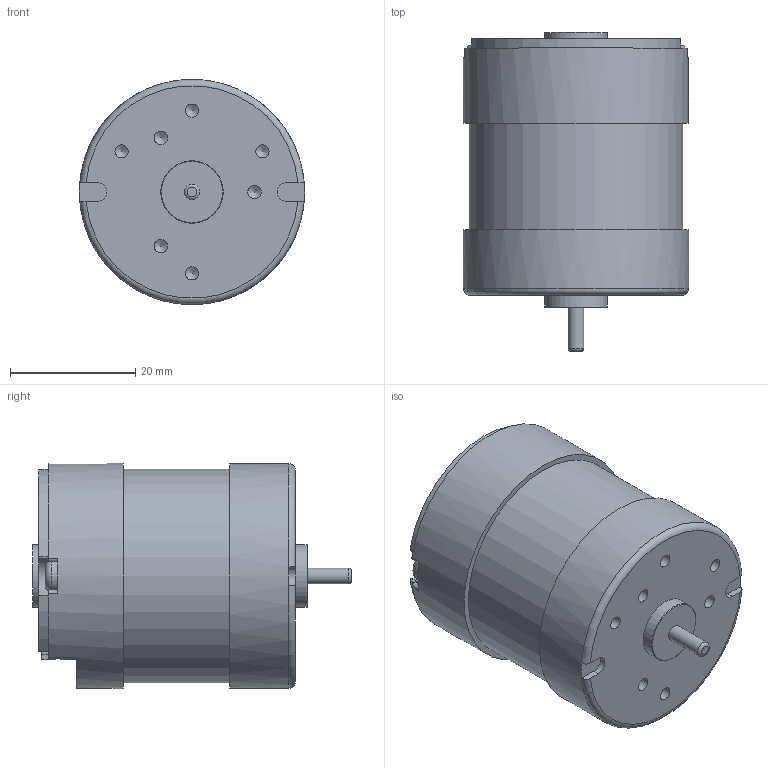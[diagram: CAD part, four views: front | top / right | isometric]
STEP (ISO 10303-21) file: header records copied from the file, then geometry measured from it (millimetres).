
FILE_DESCRIPTION(/* description */ (''),/* implementation_level */ '2;1');
FILE_NAME(/* name */ 'C:\Users\kougu\OneDrive\デスクトップ\TP-3641AB.stp',/* time_stamp */ '2024-07-02T17:17:48+09:00',/* author */ ('kougu'),/* organization */ (''),/* preprocessor_version */ 'ST-DEVELOPER v18.1',/* originating_system */ 'Autodesk Inventor 2021',/* authorisation */ '');
FILE_SCHEMA (('AUTOMOTIVE_DESIGN { 1 0 10303 214 3 1 1 }'));
Length unit declared in the file: millimetre
Products named in the file (3): TP-3641AB; TP-3641BA,l; S9B-PH-SM4-TB
Assembly tree (2 placements, depth 2):
  TP-3641AB
    TP-3641BA,l
    S9B-PH-SM4-TB
Bounding box: 36 x 51 x 36 mm (x, y, z)
Volume: 38729.4 mm3; surface area: 8223 mm2
Topology: 2 solids, 2 shells, 277 faces, 749 edges, 500 vertices
Faces by surface type: plane 192, cylinder 68, cone 12, torus 5
Full cylindrical faces by diameter (mm): 1.2 x2, 2 x2, 2.113 x4, 2.15 x3, 2.5 x2, 5 x2, 10 x2, 34.1 x1, 36 x2
Entity records: 9051 total; most frequent: CARTESIAN_POINT 1556, DIRECTION 1480, ORIENTED_EDGE 1476, EDGE_CURVE 738, LINE 552, VECTOR 552, VERTEX_POINT 500, AXIS2_PLACEMENT_3D 464
